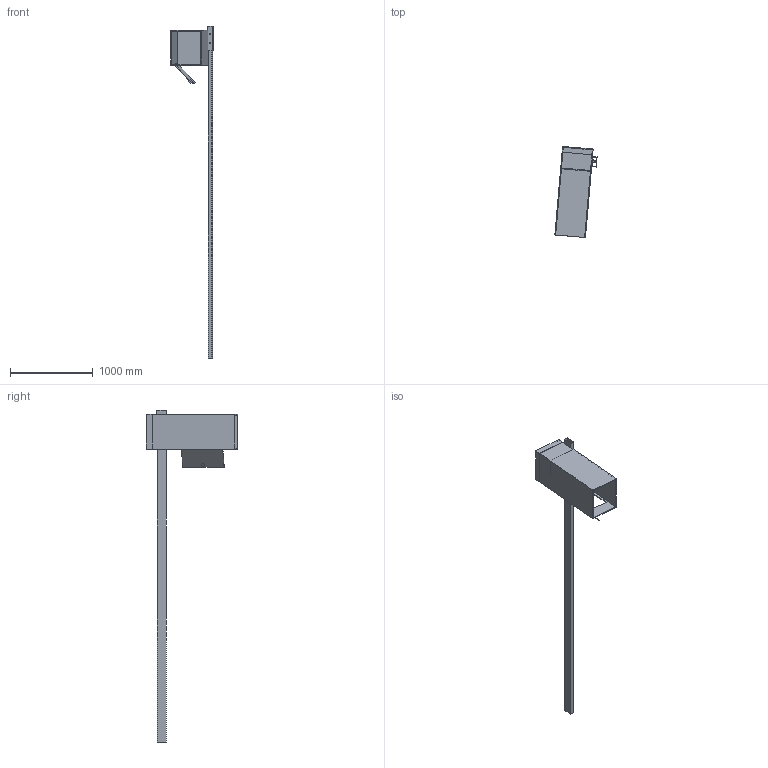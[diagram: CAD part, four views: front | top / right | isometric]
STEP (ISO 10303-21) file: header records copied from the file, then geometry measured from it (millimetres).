
FILE_DESCRIPTION (( 'STEP AP203' ), '1' );
FILE_NAME ('MOTOR+SHAFT.STEP', '2018-10-08T23:22:37', ( '' ), ( '' ), 'SwSTEP 2.0', 'SolidWorks 2018', '' );
FILE_SCHEMA (( 'CONFIG_CONTROL_DESIGN' ));
Length unit declared in the file: millimetre
Products named in the file (22): jaw 1; gearbox; DOOR; rotating support base; motor connecter; motor; MOTOR+SHAFT; arm; motor plate; Part1_Default<As Machined>; manual clutch; holder seat; hinge 1; shaft holder; door lock; door; hinge pin; barrier cap_Default<As Machined>; motor-gearbox; BARRIER ARM; jaw 2; shaft
Assembly tree (22 placements, depth 3):
  MOTOR+SHAFT
    jaw 1
    motor
    jaw 2
    shaft
    Part1_Default<As Machined>
    manual clutch
    DOOR
      door
      door lock
      hinge 1  x2
      hinge pin
    BARRIER ARM
      arm
      rotating support base
    barrier cap_Default<As Machined>
    holder seat
    shaft holder
    motor connecter
    gearbox
    motor-gearbox
    motor plate
Bounding box: 509.05 x 1098 x 4000 mm (x, y, z)
Volume: 23964990 mm3; surface area: 6834722.6 mm2
Topology: 25 solids, 25 shells, 466 faces, 1158 edges, 761 vertices
Faces by surface type: plane 262, cylinder 192, torus 8, cone 4
Entity records: 15826 total; most frequent: DIRECTION 2430, CARTESIAN_POINT 2340, ORIENTED_EDGE 2192, EDGE_CURVE 1096, AXIS2_PLACEMENT_3D 867, VERTEX_POINT 721, LINE 696, VECTOR 696
